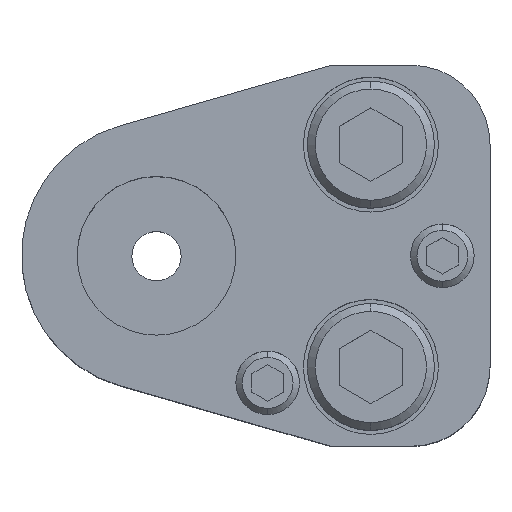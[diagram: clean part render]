
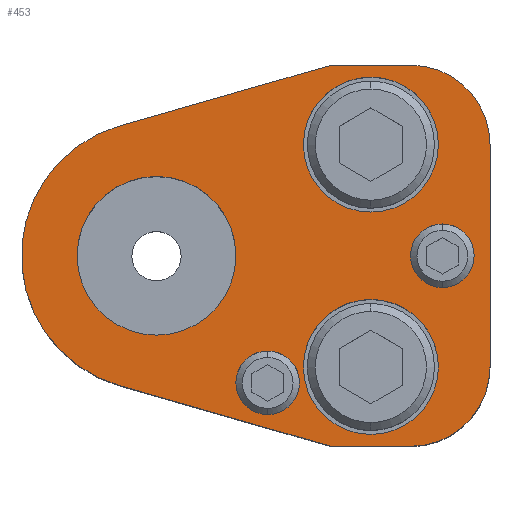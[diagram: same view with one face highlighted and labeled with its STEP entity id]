
A CAD part, top view. The second image highlights one B-rep face of the part: STEP entity #453.
In plain terms, the highlighted planar face has unit normal (0, 0, 1).
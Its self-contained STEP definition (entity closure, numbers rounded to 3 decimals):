
#207=FACE_BOUND('',#813,.T.);
#208=FACE_BOUND('',#814,.T.);
#209=FACE_BOUND('',#815,.T.);
#210=FACE_BOUND('',#816,.T.);
#211=FACE_BOUND('',#817,.T.);
#212=FACE_BOUND('',#818,.T.);
#273=CIRCLE('',#2646,17.);
#275=CIRCLE('',#2651,10.);
#277=CIRCLE('',#2655,10.);
#279=CIRCLE('',#2660,4.);
#281=CIRCLE('',#2663,4.);
#283=CIRCLE('',#2666,4.);
#285=CIRCLE('',#2669,4.);
#295=CIRCLE('',#2684,8.5);
#296=CIRCLE('',#2685,8.5);
#297=CIRCLE('',#2686,8.5);
#298=CIRCLE('',#2687,8.5);
#299=CIRCLE('',#2688,10.);
#300=CIRCLE('',#2689,10.);
#453=ADVANCED_FACE('',(#207,#208,#209,#210,#211,#212),#585,.T.);
#585=PLANE('',#2690);
#813=EDGE_LOOP('',(#1147,#1148,#1149,#1150,#1151,#1152,#1153,#1154));
#814=EDGE_LOOP('',(#1155,#1156));
#815=EDGE_LOOP('',(#1157,#1158));
#816=EDGE_LOOP('',(#1159,#1160));
#817=EDGE_LOOP('',(#1161,#1162));
#818=EDGE_LOOP('',(#1163,#1164));
#1147=ORIENTED_EDGE('',*,*,#1934,.T.);
#1148=ORIENTED_EDGE('',*,*,#1938,.T.);
#1149=ORIENTED_EDGE('',*,*,#1941,.T.);
#1150=ORIENTED_EDGE('',*,*,#1944,.T.);
#1151=ORIENTED_EDGE('',*,*,#1947,.T.);
#1152=ORIENTED_EDGE('',*,*,#1950,.T.);
#1153=ORIENTED_EDGE('',*,*,#1953,.T.);
#1154=ORIENTED_EDGE('',*,*,#1956,.T.);
#1155=ORIENTED_EDGE('',*,*,#1981,.F.);
#1156=ORIENTED_EDGE('',*,*,#1982,.F.);
#1157=ORIENTED_EDGE('',*,*,#1983,.F.);
#1158=ORIENTED_EDGE('',*,*,#1984,.F.);
#1159=ORIENTED_EDGE('',*,*,#1967,.F.);
#1160=ORIENTED_EDGE('',*,*,#1963,.F.);
#1161=ORIENTED_EDGE('',*,*,#1961,.F.);
#1162=ORIENTED_EDGE('',*,*,#1957,.F.);
#1163=ORIENTED_EDGE('',*,*,#1985,.T.);
#1164=ORIENTED_EDGE('',*,*,#1986,.T.);
#1688=VERTEX_POINT('',#3846);
#1689=VERTEX_POINT('',#3848);
#1692=VERTEX_POINT('',#3855);
#1694=VERTEX_POINT('',#3861);
#1696=VERTEX_POINT('',#3867);
#1698=VERTEX_POINT('',#3873);
#1700=VERTEX_POINT('',#3879);
#1702=VERTEX_POINT('',#3885);
#1703=VERTEX_POINT('',#3893);
#1704=VERTEX_POINT('',#3894);
#1707=VERTEX_POINT('',#3905);
#1708=VERTEX_POINT('',#3906);
#1719=VERTEX_POINT('',#3941);
#1720=VERTEX_POINT('',#3942);
#1721=VERTEX_POINT('',#3945);
#1722=VERTEX_POINT('',#3946);
#1723=VERTEX_POINT('',#3949);
#1724=VERTEX_POINT('',#3950);
#1934=EDGE_CURVE('',#1689,#1688,#273,.T.);
#1938=EDGE_CURVE('',#1688,#1692,#2266,.T.);
#1941=EDGE_CURVE('',#1692,#1694,#2269,.T.);
#1944=EDGE_CURVE('',#1694,#1696,#275,.T.);
#1947=EDGE_CURVE('',#1696,#1698,#2273,.T.);
#1950=EDGE_CURVE('',#1698,#1700,#277,.T.);
#1953=EDGE_CURVE('',#1700,#1702,#2277,.T.);
#1956=EDGE_CURVE('',#1702,#1689,#2280,.T.);
#1957=EDGE_CURVE('',#1703,#1704,#279,.T.);
#1961=EDGE_CURVE('',#1704,#1703,#281,.T.);
#1963=EDGE_CURVE('',#1707,#1708,#283,.T.);
#1967=EDGE_CURVE('',#1708,#1707,#285,.T.);
#1981=EDGE_CURVE('',#1719,#1720,#295,.T.);
#1982=EDGE_CURVE('',#1720,#1719,#296,.T.);
#1983=EDGE_CURVE('',#1721,#1722,#297,.T.);
#1984=EDGE_CURVE('',#1722,#1721,#298,.T.);
#1985=EDGE_CURVE('',#1723,#1724,#299,.T.);
#1986=EDGE_CURVE('',#1724,#1723,#300,.T.);
#2266=LINE('',#3856,#2458);
#2269=LINE('',#3862,#2461);
#2273=LINE('',#3874,#2465);
#2277=LINE('',#3886,#2469);
#2280=LINE('',#3890,#2472);
#2458=VECTOR('',#3056,1.);
#2461=VECTOR('',#3061,1.);
#2465=VECTOR('',#3073,1.);
#2469=VECTOR('',#3085,1.);
#2472=VECTOR('',#3090,1.);
#2646=AXIS2_PLACEMENT_3D('',#3847,#3048,#3049);
#2651=AXIS2_PLACEMENT_3D('',#3868,#3066,#3067);
#2655=AXIS2_PLACEMENT_3D('',#3880,#3078,#3079);
#2660=AXIS2_PLACEMENT_3D('',#3892,#3093,#3094);
#2663=AXIS2_PLACEMENT_3D('',#3901,#3101,#3102);
#2666=AXIS2_PLACEMENT_3D('',#3904,#3107,#3108);
#2669=AXIS2_PLACEMENT_3D('',#3913,#3115,#3116);
#2684=AXIS2_PLACEMENT_3D('',#3940,#3149,#3150);
#2685=AXIS2_PLACEMENT_3D('',#3943,#3151,#3152);
#2686=AXIS2_PLACEMENT_3D('',#3944,#3153,#3154);
#2687=AXIS2_PLACEMENT_3D('',#3947,#3155,#3156);
#2688=AXIS2_PLACEMENT_3D('',#3948,#3157,#3158);
#2689=AXIS2_PLACEMENT_3D('',#3951,#3159,#3160);
#2690=AXIS2_PLACEMENT_3D('',#3952,#3161,#3162);
#3048=DIRECTION('',(0.,0.,1.));
#3049=DIRECTION('',(0.,1.,0.));
#3056=DIRECTION('',(0.961,-0.276,0.));
#3061=DIRECTION('',(1.,0.,0.));
#3066=DIRECTION('',(0.,0.,1.));
#3067=DIRECTION('',(-0.707,0.707,0.));
#3073=DIRECTION('',(0.,1.,0.));
#3078=DIRECTION('',(0.,0.,1.));
#3079=DIRECTION('',(-0.707,-0.707,0.));
#3085=DIRECTION('',(-1.,0.,0.));
#3090=DIRECTION('',(-0.961,-0.276,0.));
#3093=DIRECTION('',(0.,0.,1.));
#3094=DIRECTION('',(1.,0.,0.));
#3101=DIRECTION('',(0.,0.,1.));
#3102=DIRECTION('',(-1.,0.,0.));
#3107=DIRECTION('',(0.,0.,1.));
#3108=DIRECTION('',(1.,0.,0.));
#3115=DIRECTION('',(0.,0.,1.));
#3116=DIRECTION('',(-1.,0.,0.));
#3149=DIRECTION('',(0.,0.,1.));
#3150=DIRECTION('',(1.,0.,0.));
#3151=DIRECTION('',(0.,0.,1.));
#3152=DIRECTION('',(-1.,0.,0.));
#3153=DIRECTION('',(0.,0.,1.));
#3154=DIRECTION('',(1.,0.,0.));
#3155=DIRECTION('',(0.,0.,1.));
#3156=DIRECTION('',(-1.,0.,0.));
#3157=DIRECTION('',(0.,0.,-1.));
#3158=DIRECTION('',(-1.,0.,0.));
#3159=DIRECTION('',(0.,0.,-1.));
#3160=DIRECTION('',(1.,0.,0.));
#3161=DIRECTION('',(0.,0.,1.));
#3162=DIRECTION('',(0.961,0.276,0.));
#3846=CARTESIAN_POINT('',(-4.69,-16.34,35.));
#3847=CARTESIAN_POINT('',(0.,0.,35.));
#3848=CARTESIAN_POINT('',(-4.69,16.34,35.));
#3855=CARTESIAN_POINT('',(22.,-24.,35.));
#3856=CARTESIAN_POINT('',(22.,-24.,35.));
#3861=CARTESIAN_POINT('',(32.,-24.,35.));
#3862=CARTESIAN_POINT('',(22.,-24.,35.));
#3867=CARTESIAN_POINT('',(42.,-14.,35.));
#3868=CARTESIAN_POINT('',(32.,-14.,35.));
#3873=CARTESIAN_POINT('',(42.,14.,35.));
#3874=CARTESIAN_POINT('',(42.,-14.,35.));
#3879=CARTESIAN_POINT('',(32.,24.,35.));
#3880=CARTESIAN_POINT('',(32.,14.,35.));
#3885=CARTESIAN_POINT('',(22.,24.,35.));
#3886=CARTESIAN_POINT('',(22.,24.,35.));
#3890=CARTESIAN_POINT('',(22.,24.,35.));
#3892=CARTESIAN_POINT('',(14.,-16.,35.));
#3893=CARTESIAN_POINT('',(14.,-12.,35.));
#3894=CARTESIAN_POINT('',(14.,-20.,35.));
#3901=CARTESIAN_POINT('',(14.,-16.,35.));
#3904=CARTESIAN_POINT('',(36.,0.,35.));
#3905=CARTESIAN_POINT('',(36.,4.,35.));
#3906=CARTESIAN_POINT('',(36.,-4.,35.));
#3913=CARTESIAN_POINT('',(36.,0.,35.));
#3940=CARTESIAN_POINT('',(27.,-14.,35.));
#3941=CARTESIAN_POINT('',(27.,-5.5,35.));
#3942=CARTESIAN_POINT('',(27.,-22.5,35.));
#3943=CARTESIAN_POINT('',(27.,-14.,35.));
#3944=CARTESIAN_POINT('',(27.,14.,35.));
#3945=CARTESIAN_POINT('',(27.,22.5,35.));
#3946=CARTESIAN_POINT('',(27.,5.5,35.));
#3947=CARTESIAN_POINT('',(27.,14.,35.));
#3948=CARTESIAN_POINT('',(0.,0.,35.));
#3949=CARTESIAN_POINT('',(0.,10.,35.));
#3950=CARTESIAN_POINT('',(0.,-10.,35.));
#3951=CARTESIAN_POINT('',(0.,0.,35.));
#3952=CARTESIAN_POINT('',(-4.69,16.34,35.));
